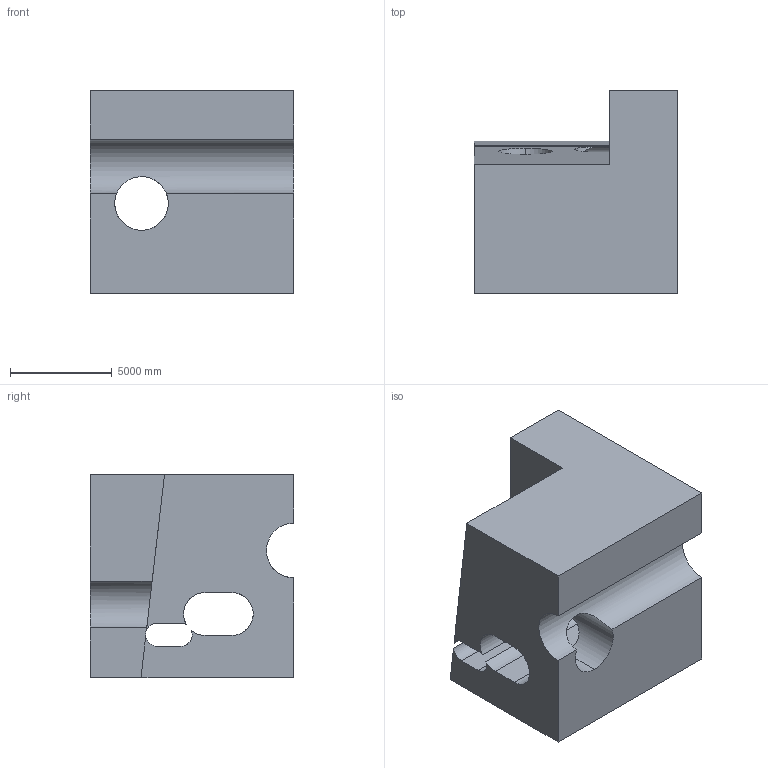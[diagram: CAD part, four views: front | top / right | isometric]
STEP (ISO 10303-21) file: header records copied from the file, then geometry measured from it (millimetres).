
FILE_DESCRIPTION (( 'STEP AP203' ), '1' );
FILE_NAME ('1687.STEP', '2022-08-19T11:43:47', ( 'user' ), ( '' ), 'SwSTEP 2.0', 'SolidWorks 2021', '' );
FILE_SCHEMA (( 'CONFIG_CONTROL_DESIGN' ));
Length unit declared in the file: centimetre
Products named in the file (1): 1687
Bounding box: 10000 x 10000 x 10000 mm (x, y, z)
Volume: 605433503129.9 mm3; surface area: 723474001.9 mm2
Topology: 1 solids, 1 shells, 42 faces, 141 edges, 94 vertices
Faces by surface type: plane 24, cylinder 18
Entity records: 2840 total; most frequent: CARTESIAN_POINT 1545, ORIENTED_EDGE 282, DIRECTION 231, EDGE_CURVE 141, VERTEX_POINT 94, VECTOR 89, LINE 89, AXIS2_PLACEMENT_3D 71
